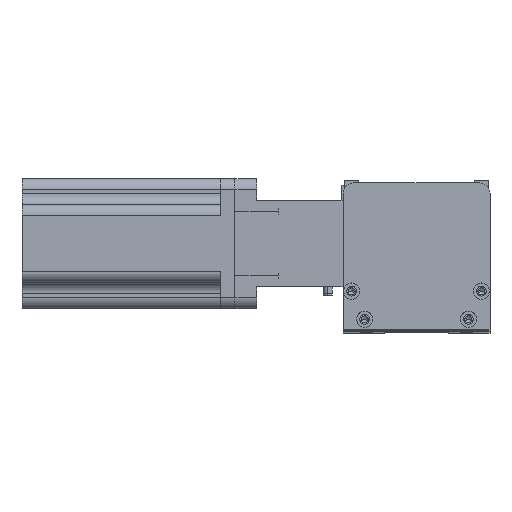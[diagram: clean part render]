
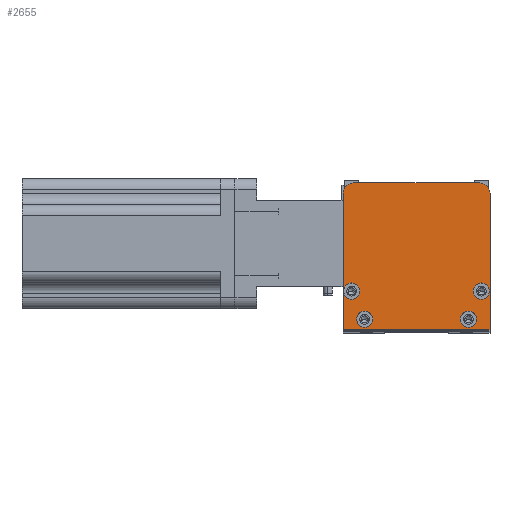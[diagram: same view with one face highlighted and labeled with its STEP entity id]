
A CAD part, top view. The second image highlights one B-rep face of the part: STEP entity #2655.
In plain terms, the highlighted planar face has unit normal (0, 0, 1) as drawn and (0, 0, -1) by its records, which use the part's own axes.
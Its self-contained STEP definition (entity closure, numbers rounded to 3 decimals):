
#114 = DIRECTION ( 'NONE',  ( 0., 0., -1. ) ) ;
#211 = DIRECTION ( 'NONE',  ( 0., 0., -1. ) ) ;
#321 = CIRCLE ( 'NONE', #20813, 5. ) ;
#1016 = CIRCLE ( 'NONE', #13592, 5. ) ;
#1098 = VECTOR ( 'NONE', #23288, 1000. ) ;
#1299 = CARTESIAN_POINT ( 'NONE',  ( 63., 68., 0. ) ) ;
#1988 = EDGE_CURVE ( 'NONE', #26762, #8624, #3748, .T. ) ;
#2081 = DIRECTION ( 'NONE',  ( -1., 0., 0. ) ) ;
#2352 = DIRECTION ( 'NONE',  ( 0., 0., -1. ) ) ;
#2358 = ORIENTED_EDGE ( 'NONE', *, *, #12471, .F. ) ;
#2387 = LINE ( 'NONE', #26147, #23946 ) ;
#2434 = CARTESIAN_POINT ( 'NONE',  ( 64., 18., 0. ) ) ;
#2655 = ADVANCED_FACE ( 'NONE', ( #17268, #17636, #17610, #17664, #17012 ), #23449, .F. ) ;
#2895 = VERTEX_POINT ( 'NONE', #9545 ) ;
#3411 = DIRECTION ( 'NONE',  ( 1., 0., 0. ) ) ;
#3512 = EDGE_LOOP ( 'NONE', ( #6558, #19944 ) ) ;
#3547 = CARTESIAN_POINT ( 'NONE',  ( 68., 0., 0. ) ) ;
#3711 = CARTESIAN_POINT ( 'NONE',  ( 10., 5., 0. ) ) ;
#3748 = CIRCLE ( 'NONE', #22820, 3.75 ) ;
#3929 = ORIENTED_EDGE ( 'NONE', *, *, #23693, .F. ) ;
#4323 = CARTESIAN_POINT ( 'NONE',  ( 68., 68., 0. ) ) ;
#4395 = EDGE_CURVE ( 'NONE', #15525, #10341, #19925, .T. ) ;
#4483 = DIRECTION ( 'NONE',  ( 0., 0., -1. ) ) ;
#4504 = EDGE_LOOP ( 'NONE', ( #16860, #3929 ) ) ;
#4807 = DIRECTION ( 'NONE',  ( 0., 0., -1. ) ) ;
#4847 = AXIS2_PLACEMENT_3D ( 'NONE', #17013, #4483, #19105 ) ;
#4862 = CARTESIAN_POINT ( 'NONE',  ( 58., 5., 0. ) ) ;
#5206 = EDGE_CURVE ( 'NONE', #15448, #26982, #321, .T. ) ;
#5745 = DIRECTION ( 'NONE',  ( -1., 0., 0. ) ) ;
#5967 = DIRECTION ( 'NONE',  ( 0., 0., -1. ) ) ;
#6487 = LINE ( 'NONE', #4323, #1098 ) ;
#6558 = ORIENTED_EDGE ( 'NONE', *, *, #13244, .F. ) ;
#6939 = DIRECTION ( 'NONE',  ( -1., 0., 0. ) ) ;
#7507 = CARTESIAN_POINT ( 'NONE',  ( 67.75, 18., 0. ) ) ;
#8148 = EDGE_CURVE ( 'NONE', #24927, #10287, #16668, .T. ) ;
#8499 = CARTESIAN_POINT ( 'NONE',  ( 60.25, 18., 0. ) ) ;
#8624 = VERTEX_POINT ( 'NONE', #7507 ) ;
#8633 = CARTESIAN_POINT ( 'NONE',  ( 4., 18., 0. ) ) ;
#8956 = ORIENTED_EDGE ( 'NONE', *, *, #8148, .F. ) ;
#9545 = CARTESIAN_POINT ( 'NONE',  ( 6.25, 5., 0. ) ) ;
#9744 = AXIS2_PLACEMENT_3D ( 'NONE', #4862, #19488, #6939 ) ;
#9763 = VERTEX_POINT ( 'NONE', #21016 ) ;
#9813 = EDGE_LOOP ( 'NONE', ( #18839, #26306 ) ) ;
#9988 = CIRCLE ( 'NONE', #9744, 3.75 ) ;
#10250 = CARTESIAN_POINT ( 'NONE',  ( 5., 63., 0. ) ) ;
#10287 = VERTEX_POINT ( 'NONE', #25108 ) ;
#10341 = VERTEX_POINT ( 'NONE', #10509 ) ;
#10509 = CARTESIAN_POINT ( 'NONE',  ( 0.25, 18., 0. ) ) ;
#10670 = VERTEX_POINT ( 'NONE', #26445 ) ;
#10736 = DIRECTION ( 'NONE',  ( -1., 0., 0. ) ) ;
#10896 = EDGE_LOOP ( 'NONE', ( #21613, #2358 ) ) ;
#11353 = AXIS2_PLACEMENT_3D ( 'NONE', #23066, #22878, #22690 ) ;
#11359 = DIRECTION ( 'NONE',  ( 0., -1., 0. ) ) ;
#11436 = CIRCLE ( 'NONE', #16378, 3.75 ) ;
#11907 = AXIS2_PLACEMENT_3D ( 'NONE', #17353, #4807, #19434 ) ;
#12203 = ORIENTED_EDGE ( 'NONE', *, *, #5206, .T. ) ;
#12338 = DIRECTION ( 'NONE',  ( 1., 0., 0. ) ) ;
#12382 = CARTESIAN_POINT ( 'NONE',  ( 58., 5., 0. ) ) ;
#12468 = CARTESIAN_POINT ( 'NONE',  ( 63., 63., 0. ) ) ;
#12471 = EDGE_CURVE ( 'NONE', #13150, #2895, #11436, .T. ) ;
#12730 = CARTESIAN_POINT ( 'NONE',  ( 54.25, 5., 0. ) ) ;
#12867 = AXIS2_PLACEMENT_3D ( 'NONE', #12382, #114, #14487 ) ;
#13146 = ORIENTED_EDGE ( 'NONE', *, *, #17034, .T. ) ;
#13150 = VERTEX_POINT ( 'NONE', #18722 ) ;
#13244 = EDGE_CURVE ( 'NONE', #10341, #15525, #20306, .T. ) ;
#13260 = CARTESIAN_POINT ( 'NONE',  ( 7.75, 18., 0. ) ) ;
#13469 = EDGE_CURVE ( 'NONE', #15349, #10670, #15011, .T. ) ;
#13543 = CARTESIAN_POINT ( 'NONE',  ( 5., 68., 0. ) ) ;
#13592 = AXIS2_PLACEMENT_3D ( 'NONE', #12468, #211, #14585 ) ;
#13827 = EDGE_CURVE ( 'NONE', #15448, #9763, #2387, .T. ) ;
#14349 = CARTESIAN_POINT ( 'NONE',  ( 68., 0., 0. ) ) ;
#14487 = DIRECTION ( 'NONE',  ( -1., 0., 0. ) ) ;
#14585 = DIRECTION ( 'NONE',  ( 1., 0., 0. ) ) ;
#15011 = CIRCLE ( 'NONE', #12867, 3.75 ) ;
#15349 = VERTEX_POINT ( 'NONE', #12730 ) ;
#15448 = VERTEX_POINT ( 'NONE', #23627 ) ;
#15525 = VERTEX_POINT ( 'NONE', #13260 ) ;
#15743 = ORIENTED_EDGE ( 'NONE', *, *, #17385, .F. ) ;
#15847 = CARTESIAN_POINT ( 'NONE',  ( 68., 0., 0. ) ) ;
#15948 = ORIENTED_EDGE ( 'NONE', *, *, #21905, .F. ) ;
#16378 = AXIS2_PLACEMENT_3D ( 'NONE', #3711, #18313, #5745 ) ;
#16668 = LINE ( 'NONE', #14349, #21604 ) ;
#16860 = ORIENTED_EDGE ( 'NONE', *, *, #13469, .F. ) ;
#17012 = FACE_OUTER_BOUND ( 'NONE', #19885, .T. ) ;
#17013 = CARTESIAN_POINT ( 'NONE',  ( 64., 18., 0. ) ) ;
#17034 = EDGE_CURVE ( 'NONE', #17947, #10287, #1016, .T. ) ;
#17268 = FACE_BOUND ( 'NONE', #9813, .T. ) ;
#17353 = CARTESIAN_POINT ( 'NONE',  ( 10., 5., 0. ) ) ;
#17385 = EDGE_CURVE ( 'NONE', #9763, #24927, #18170, .T. ) ;
#17610 = FACE_BOUND ( 'NONE', #10896, .T. ) ;
#17636 = FACE_BOUND ( 'NONE', #3512, .T. ) ;
#17663 = AXIS2_PLACEMENT_3D ( 'NONE', #8633, #23347, #10736 ) ;
#17664 = FACE_BOUND ( 'NONE', #4504, .T. ) ;
#17947 = VERTEX_POINT ( 'NONE', #1299 ) ;
#18170 = LINE ( 'NONE', #15847, #23788 ) ;
#18313 = DIRECTION ( 'NONE',  ( 0., 0., -1. ) ) ;
#18539 = CARTESIAN_POINT ( 'NONE',  ( 4., 18., 0. ) ) ;
#18722 = CARTESIAN_POINT ( 'NONE',  ( 13.75, 5., 0. ) ) ;
#18839 = ORIENTED_EDGE ( 'NONE', *, *, #1988, .F. ) ;
#19105 = DIRECTION ( 'NONE',  ( -1., 0., 0. ) ) ;
#19434 = DIRECTION ( 'NONE',  ( -1., 0., 0. ) ) ;
#19488 = DIRECTION ( 'NONE',  ( 0., 0., -1. ) ) ;
#19568 = AXIS2_PLACEMENT_3D ( 'NONE', #18539, #5967, #20649 ) ;
#19885 = EDGE_LOOP ( 'NONE', ( #25489, #12203, #15948, #13146, #8956, #15743 ) ) ;
#19925 = CIRCLE ( 'NONE', #19568, 3.75 ) ;
#19944 = ORIENTED_EDGE ( 'NONE', *, *, #4395, .F. ) ;
#20306 = CIRCLE ( 'NONE', #17663, 3.75 ) ;
#20432 = EDGE_CURVE ( 'NONE', #8624, #26762, #26964, .T. ) ;
#20547 = DIRECTION ( 'NONE',  ( 0., 1., 0. ) ) ;
#20649 = DIRECTION ( 'NONE',  ( -1., 0., 0. ) ) ;
#20813 = AXIS2_PLACEMENT_3D ( 'NONE', #10250, #25033, #12338 ) ;
#21016 = CARTESIAN_POINT ( 'NONE',  ( 0., 0., 0. ) ) ;
#21425 = CIRCLE ( 'NONE', #11907, 3.75 ) ;
#21604 = VECTOR ( 'NONE', #20547, 1000. ) ;
#21613 = ORIENTED_EDGE ( 'NONE', *, *, #26216, .F. ) ;
#21905 = EDGE_CURVE ( 'NONE', #17947, #26982, #6487, .T. ) ;
#22690 = DIRECTION ( 'NONE',  ( 1., 0., 0. ) ) ;
#22820 = AXIS2_PLACEMENT_3D ( 'NONE', #2434, #2352, #2081 ) ;
#22878 = DIRECTION ( 'NONE',  ( 0., 0., 1. ) ) ;
#23066 = CARTESIAN_POINT ( 'NONE',  ( 0., 0., 0. ) ) ;
#23288 = DIRECTION ( 'NONE',  ( -1., 0., 0. ) ) ;
#23347 = DIRECTION ( 'NONE',  ( 0., 0., -1. ) ) ;
#23449 = PLANE ( 'NONE',  #11353 ) ;
#23627 = CARTESIAN_POINT ( 'NONE',  ( 0., 63., 0. ) ) ;
#23693 = EDGE_CURVE ( 'NONE', #10670, #15349, #9988, .T. ) ;
#23788 = VECTOR ( 'NONE', #3411, 1000. ) ;
#23946 = VECTOR ( 'NONE', #11359, 1000. ) ;
#24927 = VERTEX_POINT ( 'NONE', #3547 ) ;
#25033 = DIRECTION ( 'NONE',  ( 0., 0., -1. ) ) ;
#25108 = CARTESIAN_POINT ( 'NONE',  ( 68., 63., 0. ) ) ;
#25489 = ORIENTED_EDGE ( 'NONE', *, *, #13827, .F. ) ;
#26147 = CARTESIAN_POINT ( 'NONE',  ( 0., 0., 0. ) ) ;
#26216 = EDGE_CURVE ( 'NONE', #2895, #13150, #21425, .T. ) ;
#26306 = ORIENTED_EDGE ( 'NONE', *, *, #20432, .F. ) ;
#26445 = CARTESIAN_POINT ( 'NONE',  ( 61.75, 5., 0. ) ) ;
#26762 = VERTEX_POINT ( 'NONE', #8499 ) ;
#26964 = CIRCLE ( 'NONE', #4847, 3.75 ) ;
#26982 = VERTEX_POINT ( 'NONE', #13543 ) ;
